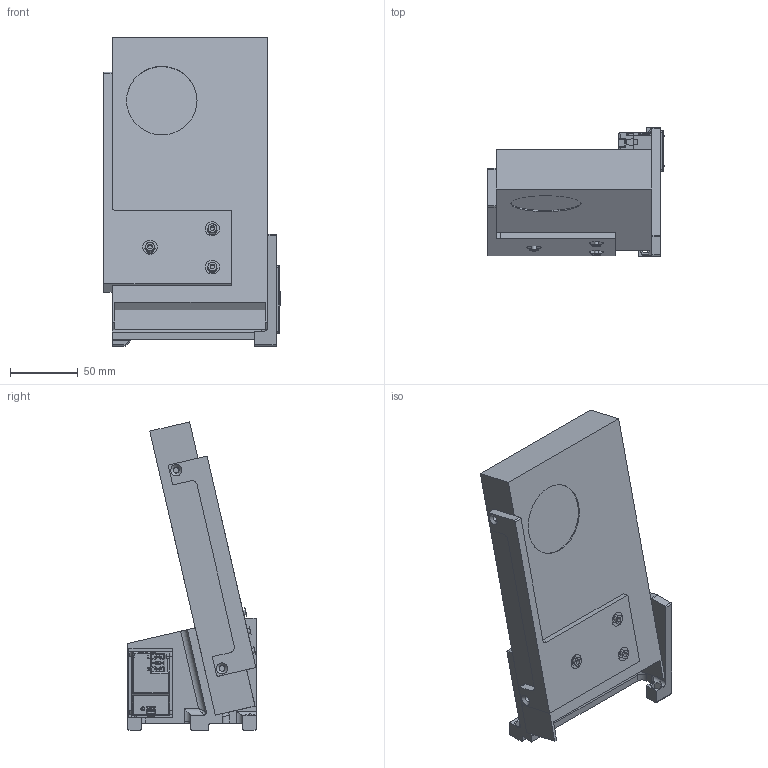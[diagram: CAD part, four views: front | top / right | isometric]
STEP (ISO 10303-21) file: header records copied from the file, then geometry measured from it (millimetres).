
FILE_DESCRIPTION(/* description */ (''),/* implementation_level */ '2;1');
FILE_NAME(/* name */ 'C:/Dropbox/cba/circuits/2020-08_psu-breakout/PSU-350-VERT v8.step',/* time_stamp */ '2020-09-09T12:38:16-04:00',/* author */ (''),/* organization */ (''),/* preprocessor_version */ 'ST-DEVELOPER v18.1',/* originating_system */ 'Autodesk Translation Framework v9.3.0.1241',/* authorisation */ '');
FILE_SCHEMA (('AUTOMOTIVE_DESIGN { 1 0 10303 214 3 1 1 }'));
Length unit declared in the file: millimetre
Products named in the file (3): PSU-350-VERT; MW-LRS-350; 486-1965-ND
Assembly tree (2 placements, depth 2):
  PSU-350-VERT
    MW-LRS-350
    486-1965-ND
Bounding box: 129.95 x 95 x 227.24 mm (x, y, z)
Volume: 849995.6 mm3; surface area: 146968.9 mm2
Topology: 4 solids, 4 shells, 1476 faces, 4114 edges, 2617 vertices
Faces by surface type: plane 1045, cylinder 255, bspline 98, cone 34, torus 26, sphere 18
Full cylindrical faces by diameter (mm): 1.4 x5, 2.5 x1, 2.6 x1, 3 x1, 3.5 x4, 4 x4, 4.25 x5, 4.5 x7, 52 x1
Entity records: 52381 total; most frequent: CARTESIAN_POINT 14615, ORIENTED_EDGE 8190, DIRECTION 7271, EDGE_CURVE 4095, LINE 3285, VECTOR 3285, VERTEX_POINT 2617, AXIS2_PLACEMENT_3D 1993
